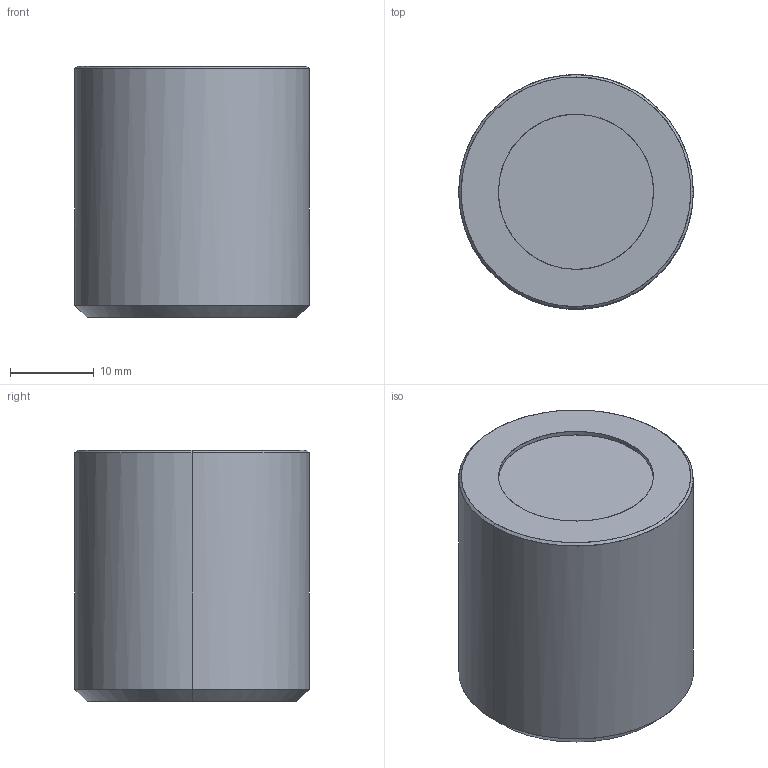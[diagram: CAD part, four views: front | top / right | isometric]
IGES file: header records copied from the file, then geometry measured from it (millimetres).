
Global section: file name: E:\UnigraphicsGraphicData\MISUMI_PRESS-PARTS\IGES\3d_mgn28_00565_r00.igs; native system: NX V5.0; preprocessor: UGS NX IGES V5.0; author: MISUMI; date: 20110105.161420; units: millimetre
Bounding box: 28 x 27.95 x 30 mm (x, y, z)
Surface area: 5234.2 mm2 (no closed solid volume)
Topology: 0 solids, 0 shells, 22 faces, 152 edges, 152 vertices
Faces by surface type: bspline 22
